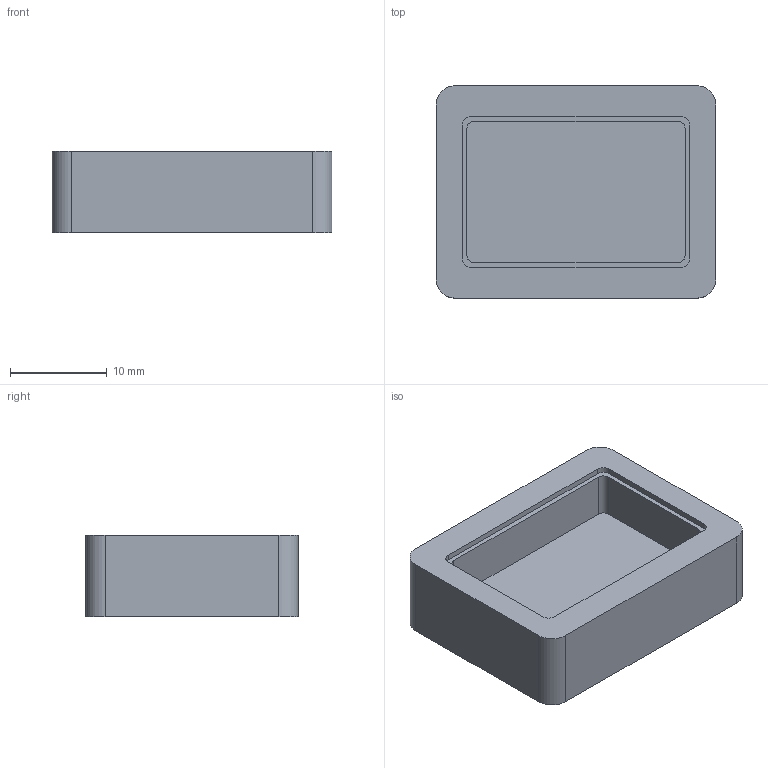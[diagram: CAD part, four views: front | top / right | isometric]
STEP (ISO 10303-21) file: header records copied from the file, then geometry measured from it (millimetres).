
FILE_DESCRIPTION(('Open CASCADE Model'),'2;1');
FILE_NAME('Open CASCADE Shape Model','2026-09-28T14:43:50',('Author'),( 'Open CASCADE'),'Open CASCADE STEP processor 7.8','Open CASCADE 7.8' ,'Unknown');
FILE_SCHEMA(('AUTOMOTIVE_DESIGN { 1 0 10303 214 1 1 1 1 }'));
Length unit declared in the file: millimetre
Products named in the file (1): Open CASCADE STEP translator 7.8 5
Bounding box: 29 x 22 x 8.4 mm (x, y, z)
Volume: 3561 mm3; surface area: 2487.2 mm2
Topology: 1 solids, 1 shells, 28 faces, 72 edges, 48 vertices
Faces by surface type: plane 16, cylinder 12
Entity records: 1802 total; most frequent: CARTESIAN_POINT 333, DIRECTION 278, LINE 152, VECTOR 152, ORIENTED_EDGE 144, PCURVE 144, DEFINITIONAL_REPRESENTATION 144, EDGE_CURVE 72
